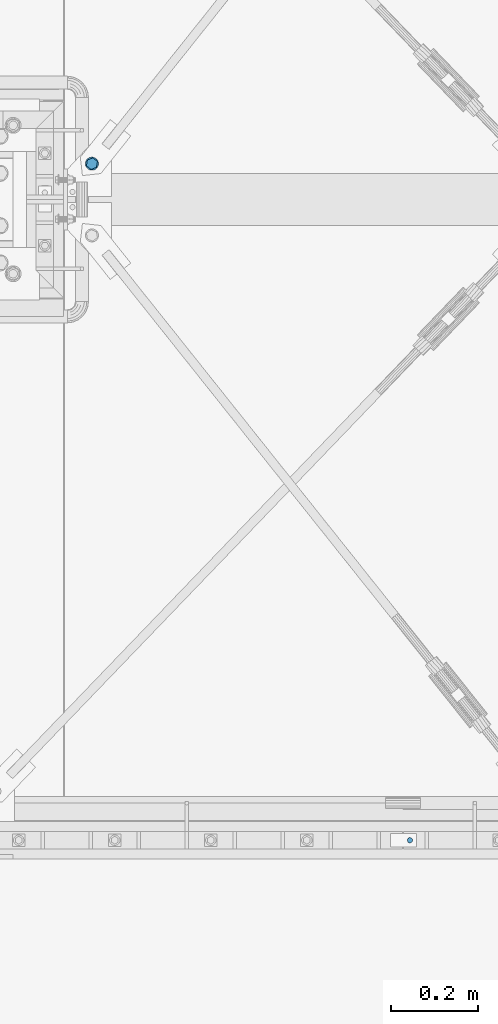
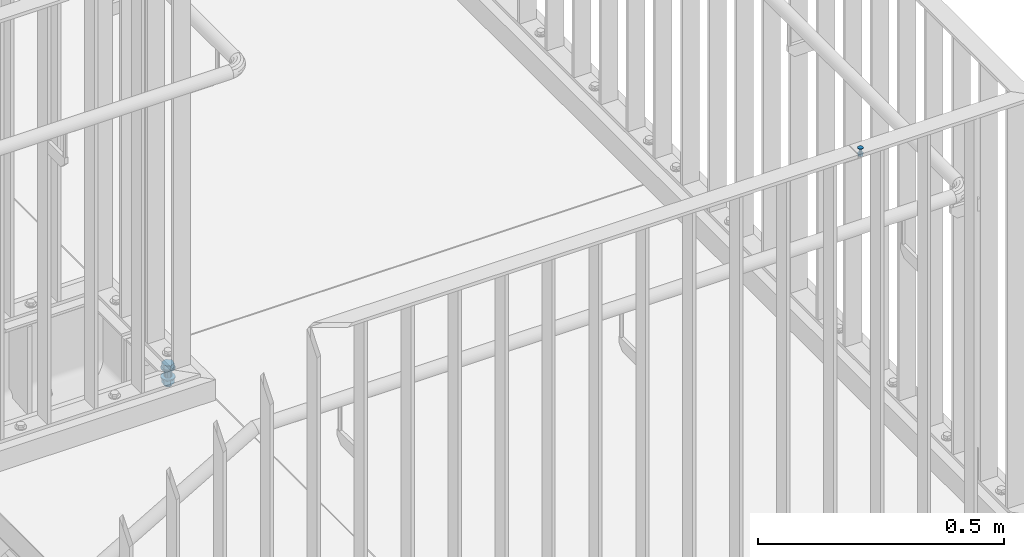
# One storey, part 105 of 145: 2 mechanical fasteners.
"""IFC2X3 building model written with IfcOpenShell, lengths in millimetres."""

from ifc_helpers import new_model, entity, si_unit, converted_unit, origin_with_axes, place, context, project, spatial, faceted_brep, element, save


model = new_model("IFC2X3")

# Units and contexts
model_context = context("Model", 3, precision=1e-09, world=origin_with_axes())
ifc_project = project(units=[si_unit("LENGTHUNIT", "METRE", prefix="MILLI"), si_unit("AREAUNIT", "SQUARE_METRE"), si_unit("VOLUMEUNIT", "CUBIC_METRE"), converted_unit("PLANEANGLEUNIT", "DEGREE", entity("IfcPlaneAngleMeasure", 0.01745329), si_unit("PLANEANGLEUNIT", "RADIAN"), dimensions=[0, 0, 0, 0, 0, 0, 0])], contexts=[model_context])

# Site, building, storey
site_placement = place(None, origin_with_axes())
site = spatial("IfcSite", under=ifc_project, at=site_placement, Name="BZ1 Grund- und Mittelschule 85716 Unterschlei?heim", CompositionType="ELEMENT")
building_placement = place(site_placement, origin_with_axes())
building = spatial("IfcBuilding", under=site, at=building_placement, Name="Struktur 1", CompositionType="ELEMENT")
storey_placement = place(building_placement, origin_with_axes())
storey = spatial("IfcBuildingStorey", under=building, at=storey_placement, Name="Default Storey", CompositionType="ELEMENT", Elevation=0.0)

# Mechanical fasteners
mechanical_fastener_1_placement = place(None, origin_with_axes())
element("IfcMechanicalFastener", 1, at=mechanical_fastener_1_placement, inside=storey, ObjectType="-", NominalDiameter=16.0, NominalLength=45.0, context=model_context, shape_type="Brep", body=[
    faceted_brep([(20491.929697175, -1624.586949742, 1433.6363644), (20491.929697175, -1624.586949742, 1436.6363644), (20489.820252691, -1622.538323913, 1436.6363644), (20489.820252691, -1622.538323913, 1433.6363644), (20488.151007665, -1620.117529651, 1436.6363644), (20488.151007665, -1620.117529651, 1433.6363644), (20486.986110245, -1617.417596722, 1436.6363644), (20486.986110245, -1617.417596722, 1433.6363644), (20486.370326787, -1614.542282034, 1436.6363644), (20486.370326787, -1614.542282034, 1433.6363644), (20486.327321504, -1611.602082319, 1436.6363644), (20486.327321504, -1611.602082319, 1433.6363644), (20486.858747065, -1608.709987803, 1436.6363644), (20486.858747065, -1608.709987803, 1433.6363644), (20487.944181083, -1605.977140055, 1436.6363644), (20487.944181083, -1605.977140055, 1433.6363644), (20489.541910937, -1603.508560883, 1436.6363644), (20489.541910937, -1603.508560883, 1433.6363644), (20491.590536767, -1601.399116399, 1436.6363644), (20491.590536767, -1601.399116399, 1433.6363644), (20494.011331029, -1599.729871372, 1436.6363644), (20494.011331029, -1599.729871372, 1433.6363644), (20496.711263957, -1598.564973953, 1436.6363644), (20496.711263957, -1598.564973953, 1433.6363644), (20499.586578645, -1597.949190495, 1436.6363644), (20499.586578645, -1597.949190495, 1433.6363644), (20502.52677836, -1597.906185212, 1436.6363644), (20502.52677836, -1597.906185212, 1433.6363644), (20505.418872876, -1598.437610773, 1436.6363644), (20505.418872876, -1598.437610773, 1433.6363644), (20508.151720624, -1599.52304479, 1436.6363644), (20508.151720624, -1599.52304479, 1433.6363644), (20510.620299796, -1601.120774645, 1436.6363644), (20510.620299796, -1601.120774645, 1433.6363644), (20512.72974428, -1603.169400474, 1436.6363644), (20512.72974428, -1603.169400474, 1433.6363644), (20514.398989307, -1605.590194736, 1436.6363644), (20514.398989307, -1605.590194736, 1433.6363644), (20515.563886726, -1608.290127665, 1436.6363644), (20515.563886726, -1608.290127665, 1433.6363644), (20516.179670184, -1611.165442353, 1436.6363644), (20516.179670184, -1611.165442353, 1433.6363644), (20516.222675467, -1614.105642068, 1436.6363644), (20516.222675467, -1614.105642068, 1433.6363644), (20515.691249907, -1616.997736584, 1436.6363644), (20515.691249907, -1616.997736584, 1433.6363644), (20514.605815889, -1619.730584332, 1436.6363644), (20514.605815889, -1619.730584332, 1433.6363644), (20513.008086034, -1622.199163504, 1436.6363644), (20513.008086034, -1622.199163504, 1433.6363644), (20510.959460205, -1624.308607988, 1436.6363644), (20510.959460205, -1624.308607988, 1433.6363644), (20508.538665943, -1625.977853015, 1436.6363644), (20508.538665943, -1625.977853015, 1433.6363644), (20505.838733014, -1627.142750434, 1436.6363644), (20505.838733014, -1627.142750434, 1433.6363644), (20502.963418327, -1627.758533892, 1436.6363644), (20502.963418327, -1627.758533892, 1433.6363644), (20500.023218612, -1627.801539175, 1436.6363644), (20500.023218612, -1627.801539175, 1433.6363644), (20497.131124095, -1627.270113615, 1436.6363644), (20497.131124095, -1627.270113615, 1433.6363644), (20494.398276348, -1626.184679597, 1436.6363644), (20494.398276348, -1626.184679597, 1433.6363644)], [[[0, 1, 2, 3]], [[3, 2, 4, 5]], [[5, 4, 6, 7]], [[7, 6, 8, 9]], [[9, 8, 10, 11]], [[11, 10, 12, 13]], [[13, 12, 14, 15]], [[15, 14, 16, 17]], [[17, 16, 18, 19]], [[19, 18, 20, 21]], [[21, 20, 22, 23]], [[23, 22, 24, 25]], [[25, 24, 26, 27]], [[27, 26, 28, 29]], [[29, 28, 30, 31]], [[31, 30, 32, 33]], [[33, 32, 34, 35]], [[35, 34, 36, 37]], [[37, 36, 38, 39]], [[39, 38, 40, 41]], [[41, 40, 42, 43]], [[43, 42, 44, 45]], [[45, 44, 46, 47]], [[47, 46, 48, 49]], [[49, 48, 50, 51]], [[51, 50, 52, 53]], [[53, 52, 54, 55]], [[55, 54, 56, 57]], [[57, 56, 58, 59]], [[59, 58, 60, 61]], [[61, 60, 62, 63]], [[63, 62, 1, 0]], [[2, 1, 62, 60, 58, 56, 54, 52, 50, 48, 46, 44, 42, 40, 38, 36, 34, 32, 30, 28, 26, 24, 22, 20, 18, 16, 14, 12, 10, 8, 6, 4]], [[63, 0, 3, 5, 7, 9, 11, 13, 15, 17, 19, 21, 23, 25, 27, 29, 31, 33, 35, 37, 39, 41, 43, 45, 47, 49, 51, 53, 55, 57, 59, 61]]]),
    faceted_brep([(20503.260494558, -1599.627054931, 1446.6363644), (20503.260494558, -1599.627054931, 1436.6363644), (20490.812995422, -1604.520968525, 1436.6363644), (20490.812995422, -1604.520968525, 1446.6363644), (20488.82749935, -1617.747775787, 1436.6363644), (20488.82749935, -1617.747775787, 1446.6363644), (20499.289502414, -1626.080669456, 1436.6363644), (20499.289502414, -1626.080669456, 1446.6363644), (20511.73700155, -1621.186755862, 1436.6363644), (20511.73700155, -1621.186755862, 1446.6363644), (20513.722497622, -1607.9599486, 1436.6363644), (20513.722497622, -1607.9599486, 1446.6363644)], [[[0, 1, 2, 3]], [[3, 2, 4, 5]], [[5, 4, 6, 7]], [[7, 6, 8, 9]], [[9, 8, 10, 11]], [[11, 10, 1, 0]], [[3, 5, 7, 9, 11, 0]], [[2, 1, 10, 8, 6, 4]]]),
    faceted_brep([(20496.290837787, -1619.111508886, 1413.6363644), (20496.290837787, -1619.111508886, 1433.6363644), (20494.275536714, -1616.727818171, 1433.6363644), (20494.275536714, -1616.727818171, 1413.6363644), (20493.325840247, -1613.754352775, 1433.6363644), (20493.325840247, -1613.754352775, 1413.6363644), (20493.586331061, -1610.643795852, 1433.6363644), (20493.586331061, -1610.643795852, 1413.6363644), (20495.017351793, -1607.869701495, 1433.6363644), (20495.017351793, -1607.869701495, 1413.6363644), (20497.401042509, -1605.854400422, 1433.6363644), (20497.401042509, -1605.854400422, 1413.6363644), (20500.374507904, -1604.904703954, 1433.6363644), (20500.374507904, -1604.904703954, 1413.6363644), (20503.485064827, -1605.165194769, 1433.6363644), (20503.485064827, -1605.165194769, 1413.6363644), (20506.259159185, -1606.596215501, 1433.6363644), (20506.259159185, -1606.596215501, 1413.6363644), (20508.274460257, -1608.979906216, 1433.6363644), (20508.274460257, -1608.979906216, 1413.6363644), (20509.224156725, -1611.953371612, 1433.6363644), (20509.224156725, -1611.953371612, 1413.6363644), (20508.96366591, -1615.063928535, 1433.6363644), (20508.96366591, -1615.063928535, 1413.6363644), (20507.532645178, -1617.838022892, 1433.6363644), (20507.532645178, -1617.838022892, 1413.6363644), (20505.148954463, -1619.853323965, 1433.6363644), (20505.148954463, -1619.853323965, 1413.6363644), (20502.175489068, -1620.803020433, 1433.6363644), (20502.175489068, -1620.803020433, 1413.6363644), (20499.064932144, -1620.542529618, 1433.6363644), (20499.064932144, -1620.542529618, 1413.6363644)], [[[0, 1, 2, 3]], [[3, 2, 4, 5]], [[5, 4, 6, 7]], [[7, 6, 8, 9]], [[9, 8, 10, 11]], [[11, 10, 12, 13]], [[13, 12, 14, 15]], [[15, 14, 16, 17]], [[17, 16, 18, 19]], [[19, 18, 20, 21]], [[21, 20, 22, 23]], [[23, 22, 24, 25]], [[25, 24, 26, 27]], [[27, 26, 28, 29]], [[29, 28, 30, 31]], [[31, 30, 1, 0]], [[2, 1, 30, 28, 26, 24, 22, 20, 18, 16, 14, 12, 10, 8, 6, 4]], [[31, 0, 3, 5, 7, 9, 11, 13, 15, 17, 19, 21, 23, 25, 27, 29]]]),
    faceted_brep([(20491.929697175, -1624.586949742, 1410.6363644), (20491.929697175, -1624.586949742, 1413.6363644), (20489.820252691, -1622.538323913, 1413.6363644), (20489.820252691, -1622.538323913, 1410.6363644), (20488.151007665, -1620.117529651, 1413.6363644), (20488.151007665, -1620.117529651, 1410.6363644), (20486.986110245, -1617.417596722, 1413.6363644), (20486.986110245, -1617.417596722, 1410.6363644), (20486.370326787, -1614.542282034, 1413.6363644), (20486.370326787, -1614.542282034, 1410.6363644), (20486.327321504, -1611.602082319, 1413.6363644), (20486.327321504, -1611.602082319, 1410.6363644), (20486.858747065, -1608.709987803, 1413.6363644), (20486.858747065, -1608.709987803, 1410.6363644), (20487.944181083, -1605.977140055, 1413.6363644), (20487.944181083, -1605.977140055, 1410.6363644), (20489.541910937, -1603.508560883, 1413.6363644), (20489.541910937, -1603.508560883, 1410.6363644), (20491.590536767, -1601.399116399, 1413.6363644), (20491.590536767, -1601.399116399, 1410.6363644), (20494.011331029, -1599.729871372, 1413.6363644), (20494.011331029, -1599.729871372, 1410.6363644), (20496.711263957, -1598.564973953, 1413.6363644), (20496.711263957, -1598.564973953, 1410.6363644), (20499.586578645, -1597.949190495, 1413.6363644), (20499.586578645, -1597.949190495, 1410.6363644), (20502.52677836, -1597.906185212, 1413.6363644), (20502.52677836, -1597.906185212, 1410.6363644), (20505.418872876, -1598.437610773, 1413.6363644), (20505.418872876, -1598.437610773, 1410.6363644), (20508.151720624, -1599.52304479, 1413.6363644), (20508.151720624, -1599.52304479, 1410.6363644), (20510.620299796, -1601.120774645, 1413.6363644), (20510.620299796, -1601.120774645, 1410.6363644), (20512.72974428, -1603.169400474, 1413.6363644), (20512.72974428, -1603.169400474, 1410.6363644), (20514.398989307, -1605.590194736, 1413.6363644), (20514.398989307, -1605.590194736, 1410.6363644), (20515.563886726, -1608.290127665, 1413.6363644), (20515.563886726, -1608.290127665, 1410.6363644), (20516.179670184, -1611.165442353, 1413.6363644), (20516.179670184, -1611.165442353, 1410.6363644), (20516.222675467, -1614.105642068, 1413.6363644), (20516.222675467, -1614.105642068, 1410.6363644), (20515.691249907, -1616.997736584, 1413.6363644), (20515.691249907, -1616.997736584, 1410.6363644), (20514.605815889, -1619.730584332, 1413.6363644), (20514.605815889, -1619.730584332, 1410.6363644), (20513.008086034, -1622.199163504, 1413.6363644), (20513.008086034, -1622.199163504, 1410.6363644), (20510.959460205, -1624.308607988, 1413.6363644), (20510.959460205, -1624.308607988, 1410.6363644), (20508.538665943, -1625.977853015, 1413.6363644), (20508.538665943, -1625.977853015, 1410.6363644), (20505.838733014, -1627.142750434, 1413.6363644), (20505.838733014, -1627.142750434, 1410.6363644), (20502.963418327, -1627.758533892, 1413.6363644), (20502.963418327, -1627.758533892, 1410.6363644), (20500.023218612, -1627.801539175, 1413.6363644), (20500.023218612, -1627.801539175, 1410.6363644), (20497.131124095, -1627.270113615, 1413.6363644), (20497.131124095, -1627.270113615, 1410.6363644), (20494.398276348, -1626.184679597, 1413.6363644), (20494.398276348, -1626.184679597, 1410.6363644)], [[[0, 1, 2, 3]], [[3, 2, 4, 5]], [[5, 4, 6, 7]], [[7, 6, 8, 9]], [[9, 8, 10, 11]], [[11, 10, 12, 13]], [[13, 12, 14, 15]], [[15, 14, 16, 17]], [[17, 16, 18, 19]], [[19, 18, 20, 21]], [[21, 20, 22, 23]], [[23, 22, 24, 25]], [[25, 24, 26, 27]], [[27, 26, 28, 29]], [[29, 28, 30, 31]], [[31, 30, 32, 33]], [[33, 32, 34, 35]], [[35, 34, 36, 37]], [[37, 36, 38, 39]], [[39, 38, 40, 41]], [[41, 40, 42, 43]], [[43, 42, 44, 45]], [[45, 44, 46, 47]], [[47, 46, 48, 49]], [[49, 48, 50, 51]], [[51, 50, 52, 53]], [[53, 52, 54, 55]], [[55, 54, 56, 57]], [[57, 56, 58, 59]], [[59, 58, 60, 61]], [[61, 60, 62, 63]], [[63, 62, 1, 0]], [[2, 1, 62, 60, 58, 56, 54, 52, 50, 48, 46, 44, 42, 40, 38, 36, 34, 32, 30, 28, 26, 24, 22, 20, 18, 16, 14, 12, 10, 8, 6, 4]], [[63, 0, 3, 5, 7, 9, 11, 13, 15, 17, 19, 21, 23, 25, 27, 29, 31, 33, 35, 37, 39, 41, 43, 45, 47, 49, 51, 53, 55, 57, 59, 61]]]),
    faceted_brep([(20503.260494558, -1599.627054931, 1410.6363644), (20503.260494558, -1599.627054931, 1397.6363644), (20490.812995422, -1604.520968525, 1397.6363644), (20490.812995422, -1604.520968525, 1410.6363644), (20488.82749935, -1617.747775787, 1397.6363644), (20488.82749935, -1617.747775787, 1410.6363644), (20499.289502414, -1626.080669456, 1397.6363644), (20499.289502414, -1626.080669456, 1410.6363644), (20511.73700155, -1621.186755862, 1397.6363644), (20511.73700155, -1621.186755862, 1410.6363644), (20513.722497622, -1607.9599486, 1397.6363644), (20513.722497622, -1607.9599486, 1410.6363644)], [[[0, 1, 2, 3]], [[3, 2, 4, 5]], [[5, 4, 6, 7]], [[7, 6, 8, 9]], [[9, 8, 10, 11]], [[11, 10, 1, 0]], [[3, 5, 7, 9, 11, 0]], [[2, 1, 10, 8, 6, 4]]]),
    faceted_brep([(20496.290837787, -1619.111508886, 1391.6363644), (20496.290837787, -1619.111508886, 1397.6363644), (20494.275536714, -1616.727818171, 1397.6363644), (20494.275536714, -1616.727818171, 1391.6363644), (20493.325840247, -1613.754352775, 1397.6363644), (20493.325840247, -1613.754352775, 1391.6363644), (20493.586331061, -1610.643795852, 1397.6363644), (20493.586331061, -1610.643795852, 1391.6363644), (20495.017351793, -1607.869701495, 1397.6363644), (20495.017351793, -1607.869701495, 1391.6363644), (20497.401042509, -1605.854400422, 1397.6363644), (20497.401042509, -1605.854400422, 1391.6363644), (20500.374507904, -1604.904703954, 1397.6363644), (20500.374507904, -1604.904703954, 1391.6363644), (20503.485064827, -1605.165194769, 1397.6363644), (20503.485064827, -1605.165194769, 1391.6363644), (20506.259159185, -1606.596215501, 1397.6363644), (20506.259159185, -1606.596215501, 1391.6363644), (20508.274460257, -1608.979906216, 1397.6363644), (20508.274460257, -1608.979906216, 1391.6363644), (20509.224156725, -1611.953371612, 1397.6363644), (20509.224156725, -1611.953371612, 1391.6363644), (20508.96366591, -1615.063928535, 1397.6363644), (20508.96366591, -1615.063928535, 1391.6363644), (20507.532645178, -1617.838022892, 1397.6363644), (20507.532645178, -1617.838022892, 1391.6363644), (20505.148954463, -1619.853323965, 1397.6363644), (20505.148954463, -1619.853323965, 1391.6363644), (20502.175489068, -1620.803020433, 1397.6363644), (20502.175489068, -1620.803020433, 1391.6363644), (20499.064932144, -1620.542529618, 1397.6363644), (20499.064932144, -1620.542529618, 1391.6363644)], [[[0, 1, 2, 3]], [[3, 2, 4, 5]], [[5, 4, 6, 7]], [[7, 6, 8, 9]], [[9, 8, 10, 11]], [[11, 10, 12, 13]], [[13, 12, 14, 15]], [[15, 14, 16, 17]], [[17, 16, 18, 19]], [[19, 18, 20, 21]], [[21, 20, 22, 23]], [[23, 22, 24, 25]], [[25, 24, 26, 27]], [[27, 26, 28, 29]], [[29, 28, 30, 31]], [[31, 30, 1, 0]], [[2, 1, 30, 28, 26, 24, 22, 20, 18, 16, 14, 12, 10, 8, 6, 4]], [[31, 0, 3, 5, 7, 9, 11, 13, 15, 17, 19, 21, 23, 25, 27, 29]]]),
])
mechanical_fastener_2_placement = place(None, origin_with_axes())
element("IfcMechanicalFastener", 2, at=mechanical_fastener_2_placement, inside=storey, ObjectType="-", NominalDiameter=6.0, NominalLength=20.0, context=model_context, shape_type="Brep", body=[
    faceted_brep([(21229.545893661, -3156.502, 2664.6363644), (21229.545893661, -3156.502, 2663.6363644), (21228.375351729, -3156.617288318, 2663.6363644), (21228.375351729, -3156.617288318, 2664.6363644), (21227.249793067, -3156.958722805, 2663.6363644), (21227.249793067, -3156.958722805, 2664.6363644), (21226.212472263, -3157.513182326, 2663.6363644), (21226.212472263, -3157.513182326, 2664.6363644), (21225.303252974, -3158.259359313, 2663.6363644), (21225.303252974, -3158.259359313, 2664.6363644), (21224.557075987, -3159.168578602, 2663.6363644), (21224.557075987, -3159.168578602, 2664.6363644), (21224.002616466, -3160.205899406, 2663.6363644), (21224.002616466, -3160.205899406, 2664.6363644), (21223.661181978, -3161.331458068, 2663.6363644), (21223.661181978, -3161.331458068, 2664.6363644), (21223.545893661, -3162.502, 2663.6363644), (21223.545893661, -3162.502, 2664.6363644), (21223.661181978, -3163.672541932, 2663.6363644), (21223.661181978, -3163.672541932, 2664.6363644), (21224.002616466, -3164.798100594, 2663.6363644), (21224.002616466, -3164.798100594, 2664.6363644), (21224.557075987, -3165.835421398, 2663.6363644), (21224.557075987, -3165.835421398, 2664.6363644), (21225.303252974, -3166.744640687, 2663.6363644), (21225.303252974, -3166.744640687, 2664.6363644), (21226.212472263, -3167.490817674, 2663.6363644), (21226.212472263, -3167.490817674, 2664.6363644), (21227.249793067, -3168.045277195, 2663.6363644), (21227.249793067, -3168.045277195, 2664.6363644), (21228.375351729, -3168.386711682, 2663.6363644), (21228.375351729, -3168.386711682, 2664.6363644), (21229.545893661, -3168.502, 2663.6363644), (21229.545893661, -3168.502, 2664.6363644), (21230.716435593, -3168.386711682, 2663.6363644), (21230.716435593, -3168.386711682, 2664.6363644), (21231.841994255, -3168.045277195, 2663.6363644), (21231.841994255, -3168.045277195, 2664.6363644), (21232.879315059, -3167.490817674, 2663.6363644), (21232.879315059, -3167.490817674, 2664.6363644), (21233.788534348, -3166.744640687, 2663.6363644), (21233.788534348, -3166.744640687, 2664.6363644), (21234.534711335, -3165.835421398, 2663.6363644), (21234.534711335, -3165.835421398, 2664.6363644), (21235.089170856, -3164.798100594, 2663.6363644), (21235.089170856, -3164.798100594, 2664.6363644), (21235.430605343, -3163.672541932, 2663.6363644), (21235.430605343, -3163.672541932, 2664.6363644), (21235.545893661, -3162.502, 2663.6363644), (21235.545893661, -3162.502, 2664.6363644), (21235.430605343, -3161.331458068, 2663.6363644), (21235.430605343, -3161.331458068, 2664.6363644), (21235.089170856, -3160.205899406, 2663.6363644), (21235.089170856, -3160.205899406, 2664.6363644), (21234.534711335, -3159.168578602, 2663.6363644), (21234.534711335, -3159.168578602, 2664.6363644), (21233.788534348, -3158.259359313, 2663.6363644), (21233.788534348, -3158.259359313, 2664.6363644), (21232.879315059, -3157.513182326, 2663.6363644), (21232.879315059, -3157.513182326, 2664.6363644), (21231.841994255, -3156.958722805, 2663.6363644), (21231.841994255, -3156.958722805, 2664.6363644), (21230.716435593, -3156.617288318, 2663.6363644), (21230.716435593, -3156.617288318, 2664.6363644)], [[[0, 1, 2, 3]], [[3, 2, 4, 5]], [[5, 4, 6, 7]], [[7, 6, 8, 9]], [[9, 8, 10, 11]], [[11, 10, 12, 13]], [[13, 12, 14, 15]], [[15, 14, 16, 17]], [[17, 16, 18, 19]], [[19, 18, 20, 21]], [[21, 20, 22, 23]], [[23, 22, 24, 25]], [[25, 24, 26, 27]], [[27, 26, 28, 29]], [[29, 28, 30, 31]], [[31, 30, 32, 33]], [[33, 32, 34, 35]], [[35, 34, 36, 37]], [[37, 36, 38, 39]], [[39, 38, 40, 41]], [[41, 40, 42, 43]], [[43, 42, 44, 45]], [[45, 44, 46, 47]], [[47, 46, 48, 49]], [[49, 48, 50, 51]], [[51, 50, 52, 53]], [[53, 52, 54, 55]], [[55, 54, 56, 57]], [[57, 56, 58, 59]], [[59, 58, 60, 61]], [[61, 60, 62, 63]], [[63, 62, 1, 0]], [[0, 3, 5, 7, 9, 11, 13, 15, 17, 19, 21, 23, 25, 27, 29, 31, 33, 35, 37, 39, 41, 43, 45, 47, 49, 51, 53, 55, 57, 59, 61, 63]], [[1, 62, 60, 58, 56, 54, 52, 50, 48, 46, 44, 42, 40, 38, 36, 34, 32, 30, 28, 26, 24, 22, 20, 18, 16, 14, 12, 10, 8, 6, 4, 2]]]),
    faceted_brep([(21229.545893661, -3159.502, 2663.6363644), (21229.545893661, -3159.502, 2651.6363644), (21228.397843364, -3159.730361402, 2651.6363644), (21228.397843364, -3159.730361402, 2663.6363644), (21227.424573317, -3160.380679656, 2651.6363644), (21227.424573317, -3160.380679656, 2663.6363644), (21226.774255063, -3161.353949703, 2651.6363644), (21226.774255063, -3161.353949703, 2663.6363644), (21226.545893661, -3162.502, 2651.6363644), (21226.545893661, -3162.502, 2663.6363644), (21226.774255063, -3163.650050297, 2651.6363644), (21226.774255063, -3163.650050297, 2663.6363644), (21227.424573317, -3164.623320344, 2651.6363644), (21227.424573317, -3164.623320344, 2663.6363644), (21228.397843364, -3165.273638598, 2651.6363644), (21228.397843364, -3165.273638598, 2663.6363644), (21229.545893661, -3165.502, 2651.6363644), (21229.545893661, -3165.502, 2663.6363644), (21230.693943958, -3165.273638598, 2651.6363644), (21230.693943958, -3165.273638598, 2663.6363644), (21231.667214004, -3164.623320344, 2651.6363644), (21231.667214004, -3164.623320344, 2663.6363644), (21232.317532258, -3163.650050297, 2651.6363644), (21232.317532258, -3163.650050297, 2663.6363644), (21232.545893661, -3162.502, 2651.6363644), (21232.545893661, -3162.502, 2663.6363644), (21232.317532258, -3161.353949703, 2651.6363644), (21232.317532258, -3161.353949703, 2663.6363644), (21231.667214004, -3160.380679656, 2651.6363644), (21231.667214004, -3160.380679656, 2663.6363644), (21230.693943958, -3159.730361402, 2651.6363644), (21230.693943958, -3159.730361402, 2663.6363644)], [[[0, 1, 2, 3]], [[3, 2, 4, 5]], [[5, 4, 6, 7]], [[7, 6, 8, 9]], [[9, 8, 10, 11]], [[11, 10, 12, 13]], [[13, 12, 14, 15]], [[15, 14, 16, 17]], [[17, 16, 18, 19]], [[19, 18, 20, 21]], [[21, 20, 22, 23]], [[23, 22, 24, 25]], [[25, 24, 26, 27]], [[27, 26, 28, 29]], [[29, 28, 30, 31]], [[31, 30, 1, 0]], [[0, 3, 5, 7, 9, 11, 13, 15, 17, 19, 21, 23, 25, 27, 29, 31]], [[1, 30, 28, 26, 24, 22, 20, 18, 16, 14, 12, 10, 8, 6, 4, 2]]]),
    faceted_brep([(21229.545893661, -3156.502, 2651.6363644), (21229.545893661, -3156.502, 2650.0363644), (21228.375351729, -3156.617288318, 2650.0363644), (21228.375351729, -3156.617288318, 2651.6363644), (21227.249793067, -3156.958722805, 2650.0363644), (21227.249793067, -3156.958722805, 2651.6363644), (21226.212472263, -3157.513182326, 2650.0363644), (21226.212472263, -3157.513182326, 2651.6363644), (21225.303252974, -3158.259359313, 2650.0363644), (21225.303252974, -3158.259359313, 2651.6363644), (21224.557075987, -3159.168578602, 2650.0363644), (21224.557075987, -3159.168578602, 2651.6363644), (21224.002616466, -3160.205899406, 2650.0363644), (21224.002616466, -3160.205899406, 2651.6363644), (21223.661181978, -3161.331458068, 2650.0363644), (21223.661181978, -3161.331458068, 2651.6363644), (21223.545893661, -3162.502, 2650.0363644), (21223.545893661, -3162.502, 2651.6363644), (21223.661181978, -3163.672541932, 2650.0363644), (21223.661181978, -3163.672541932, 2651.6363644), (21224.002616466, -3164.798100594, 2650.0363644), (21224.002616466, -3164.798100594, 2651.6363644), (21224.557075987, -3165.835421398, 2650.0363644), (21224.557075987, -3165.835421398, 2651.6363644), (21225.303252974, -3166.744640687, 2650.0363644), (21225.303252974, -3166.744640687, 2651.6363644), (21226.212472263, -3167.490817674, 2650.0363644), (21226.212472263, -3167.490817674, 2651.6363644), (21227.249793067, -3168.045277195, 2650.0363644), (21227.249793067, -3168.045277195, 2651.6363644), (21228.375351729, -3168.386711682, 2650.0363644), (21228.375351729, -3168.386711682, 2651.6363644), (21229.545893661, -3168.502, 2650.0363644), (21229.545893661, -3168.502, 2651.6363644), (21230.716435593, -3168.386711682, 2650.0363644), (21230.716435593, -3168.386711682, 2651.6363644), (21231.841994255, -3168.045277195, 2650.0363644), (21231.841994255, -3168.045277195, 2651.6363644), (21232.879315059, -3167.490817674, 2650.0363644), (21232.879315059, -3167.490817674, 2651.6363644), (21233.788534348, -3166.744640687, 2650.0363644), (21233.788534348, -3166.744640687, 2651.6363644), (21234.534711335, -3165.835421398, 2650.0363644), (21234.534711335, -3165.835421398, 2651.6363644), (21235.089170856, -3164.798100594, 2650.0363644), (21235.089170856, -3164.798100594, 2651.6363644), (21235.430605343, -3163.672541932, 2650.0363644), (21235.430605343, -3163.672541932, 2651.6363644), (21235.545893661, -3162.502, 2650.0363644), (21235.545893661, -3162.502, 2651.6363644), (21235.430605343, -3161.331458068, 2650.0363644), (21235.430605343, -3161.331458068, 2651.6363644), (21235.089170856, -3160.205899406, 2650.0363644), (21235.089170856, -3160.205899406, 2651.6363644), (21234.534711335, -3159.168578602, 2650.0363644), (21234.534711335, -3159.168578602, 2651.6363644), (21233.788534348, -3158.259359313, 2650.0363644), (21233.788534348, -3158.259359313, 2651.6363644), (21232.879315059, -3157.513182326, 2650.0363644), (21232.879315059, -3157.513182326, 2651.6363644), (21231.841994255, -3156.958722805, 2650.0363644), (21231.841994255, -3156.958722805, 2651.6363644), (21230.716435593, -3156.617288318, 2650.0363644), (21230.716435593, -3156.617288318, 2651.6363644)], [[[0, 1, 2, 3]], [[3, 2, 4, 5]], [[5, 4, 6, 7]], [[7, 6, 8, 9]], [[9, 8, 10, 11]], [[11, 10, 12, 13]], [[13, 12, 14, 15]], [[15, 14, 16, 17]], [[17, 16, 18, 19]], [[19, 18, 20, 21]], [[21, 20, 22, 23]], [[23, 22, 24, 25]], [[25, 24, 26, 27]], [[27, 26, 28, 29]], [[29, 28, 30, 31]], [[31, 30, 32, 33]], [[33, 32, 34, 35]], [[35, 34, 36, 37]], [[37, 36, 38, 39]], [[39, 38, 40, 41]], [[41, 40, 42, 43]], [[43, 42, 44, 45]], [[45, 44, 46, 47]], [[47, 46, 48, 49]], [[49, 48, 50, 51]], [[51, 50, 52, 53]], [[53, 52, 54, 55]], [[55, 54, 56, 57]], [[57, 56, 58, 59]], [[59, 58, 60, 61]], [[61, 60, 62, 63]], [[63, 62, 1, 0]], [[0, 3, 5, 7, 9, 11, 13, 15, 17, 19, 21, 23, 25, 27, 29, 31, 33, 35, 37, 39, 41, 43, 45, 47, 49, 51, 53, 55, 57, 59, 61, 63]], [[1, 62, 60, 58, 56, 54, 52, 50, 48, 46, 44, 42, 40, 38, 36, 34, 32, 30, 28, 26, 24, 22, 20, 18, 16, 14, 12, 10, 8, 6, 4, 2]]]),
    faceted_brep([(21226.783393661, -3167.286790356, 2645.0363644), (21226.783393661, -3167.286790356, 2650.0363644), (21224.020893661, -3162.502, 2650.0363644), (21224.020893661, -3162.502, 2645.0363644), (21226.783393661, -3157.717209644, 2650.0363644), (21226.783393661, -3157.717209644, 2645.0363644), (21232.308393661, -3157.717209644, 2650.0363644), (21232.308393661, -3157.717209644, 2645.0363644), (21235.070893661, -3162.502, 2650.0363644), (21235.070893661, -3162.502, 2645.0363644), (21232.308393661, -3167.286790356, 2650.0363644), (21232.308393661, -3167.286790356, 2645.0363644)], [[[0, 1, 2, 3]], [[3, 2, 4, 5]], [[5, 4, 6, 7]], [[7, 6, 8, 9]], [[9, 8, 10, 11]], [[11, 10, 1, 0]], [[4, 2, 1, 10, 8, 6]], [[0, 3, 5, 7, 9, 11]]]),
    faceted_brep([(21229.545893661, -3159.502, 2645.0363644), (21229.545893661, -3159.502, 2643.6363644), (21228.397843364, -3159.730361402, 2643.6363644), (21228.397843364, -3159.730361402, 2645.0363644), (21227.424573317, -3160.380679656, 2643.6363644), (21227.424573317, -3160.380679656, 2645.0363644), (21226.774255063, -3161.353949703, 2643.6363644), (21226.774255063, -3161.353949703, 2645.0363644), (21226.545893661, -3162.502, 2643.6363644), (21226.545893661, -3162.502, 2645.0363644), (21226.774255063, -3163.650050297, 2643.6363644), (21226.774255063, -3163.650050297, 2645.0363644), (21227.424573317, -3164.623320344, 2643.6363644), (21227.424573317, -3164.623320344, 2645.0363644), (21228.397843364, -3165.273638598, 2643.6363644), (21228.397843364, -3165.273638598, 2645.0363644), (21229.545893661, -3165.502, 2643.6363644), (21229.545893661, -3165.502, 2645.0363644), (21230.693943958, -3165.273638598, 2643.6363644), (21230.693943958, -3165.273638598, 2645.0363644), (21231.667214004, -3164.623320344, 2643.6363644), (21231.667214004, -3164.623320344, 2645.0363644), (21232.317532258, -3163.650050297, 2643.6363644), (21232.317532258, -3163.650050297, 2645.0363644), (21232.545893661, -3162.502, 2643.6363644), (21232.545893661, -3162.502, 2645.0363644), (21232.317532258, -3161.353949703, 2643.6363644), (21232.317532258, -3161.353949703, 2645.0363644), (21231.667214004, -3160.380679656, 2643.6363644), (21231.667214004, -3160.380679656, 2645.0363644), (21230.693943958, -3159.730361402, 2643.6363644), (21230.693943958, -3159.730361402, 2645.0363644)], [[[0, 1, 2, 3]], [[3, 2, 4, 5]], [[5, 4, 6, 7]], [[7, 6, 8, 9]], [[9, 8, 10, 11]], [[11, 10, 12, 13]], [[13, 12, 14, 15]], [[15, 14, 16, 17]], [[17, 16, 18, 19]], [[19, 18, 20, 21]], [[21, 20, 22, 23]], [[23, 22, 24, 25]], [[25, 24, 26, 27]], [[27, 26, 28, 29]], [[29, 28, 30, 31]], [[31, 30, 1, 0]], [[0, 3, 5, 7, 9, 11, 13, 15, 17, 19, 21, 23, 25, 27, 29, 31]], [[1, 30, 28, 26, 24, 22, 20, 18, 16, 14, 12, 10, 8, 6, 4, 2]]]),
])

save(model, "model.ifc")
